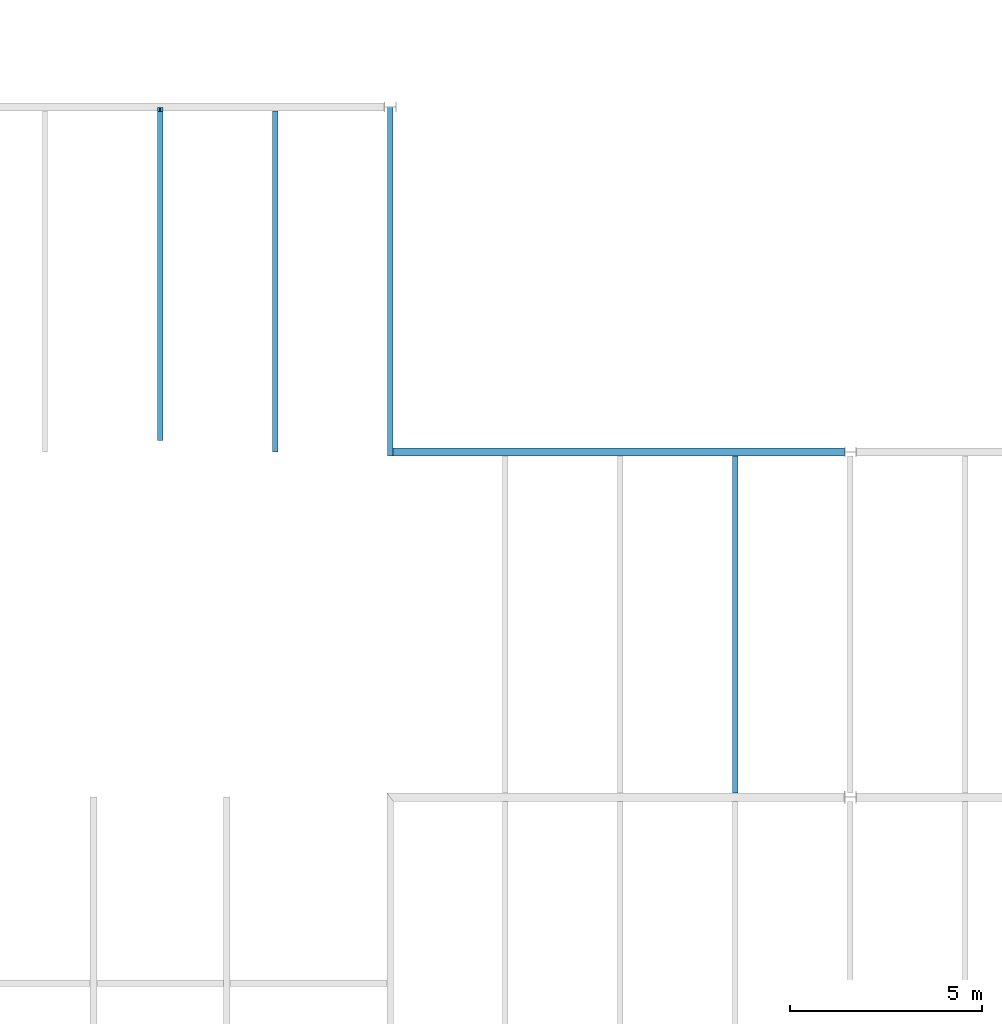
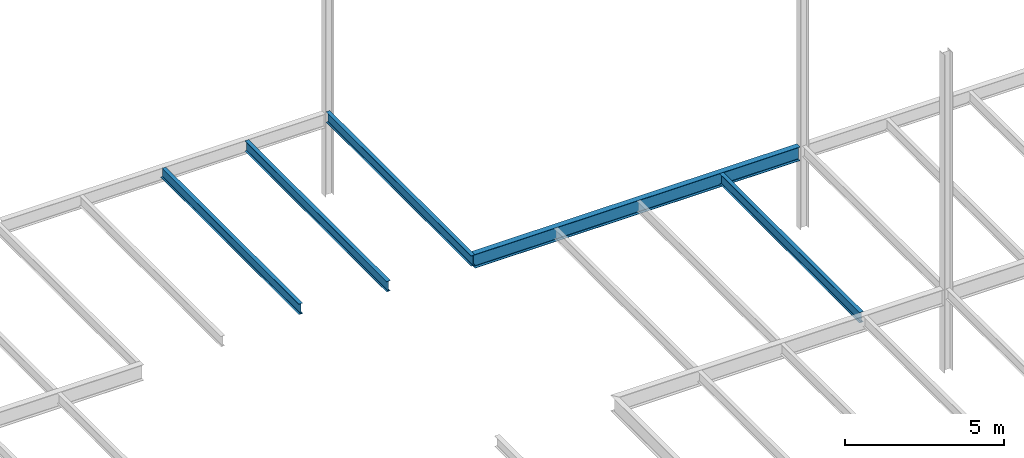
# One storey, part 17 of 26: 5 beams.
"""IFC2X3 building model written with IfcOpenShell, lengths in millimetres."""

from ifc_helpers import new_model, si_unit, origin, place, context, project, spatial, faceted_brep, material, element, save


model = new_model("IFC2X3")

# Units and contexts
context_of_model = context(None, 3, precision=1e-05, world=origin())
ifc_project = project(units=[si_unit("LENGTHUNIT", "METRE", prefix="MILLI")], contexts=[context_of_model])

# Building, storey
building = spatial("IfcBuilding", under=ifc_project, Name="Building", CompositionType="ELEMENT")
storey = spatial("IfcBuildingStorey", under=building, Name="FL4-FRM", CompositionType="ELEMENT")

# Beams
ifc_material_1 = material(Name="A992")
beam_1_placement = place(None, origin())
element("IfcBeam", 1, at=beam_1_placement, inside=storey, material=ifc_material_1, Name="B174", context=context_of_model, shape_type="Brep", body=[
    faceted_brep([(11930.0, 35995.6, 12974.0), (12070.0, 35995.6, 12974.0), (12070.0, 26895.5, 12974.0), (11930.0, 26895.5, 12974.0), (12070.0, 35995.6, 12982.8), (12070.0, 26895.5, 12982.8), (12013.4, 35995.6, 12982.8), (12013.4, 26895.5, 12982.8), (12010.8, 35995.6, 12983.1), (12010.8, 26895.5, 12983.1), (12008.3, 35995.6, 12984.2), (12008.3, 26895.5, 12984.2), (12006.2, 35995.6, 12985.8), (12006.2, 26895.5, 12985.8), (12004.6, 35995.6, 12987.9), (12004.6, 26895.5, 12987.9), (12003.5, 35995.6, 12990.4), (12003.5, 26895.5, 12990.4), (12003.2, 35995.6, 12993.0), (12003.2, 26895.5, 12993.0), (12003.2, 35995.6, 13354.0), (12003.2, 26895.5, 13354.0), (12003.5, 35995.6, 13356.6), (12003.5, 26895.5, 13356.6), (12004.6, 35995.6, 13359.1), (12004.6, 26895.5, 13359.1), (12006.2, 35995.6, 13361.2), (12006.2, 26895.5, 13361.2), (12008.3, 35995.6, 13362.8), (12008.3, 26895.5, 13362.8), (12010.8, 35995.6, 13363.9), (12010.8, 26895.5, 13363.9), (12013.4, 35995.6, 13364.2), (12013.4, 26895.5, 13364.2), (12070.0, 35995.6, 13364.2), (12070.0, 26895.5, 13364.2), (12070.0, 35995.6, 13373.0), (12070.0, 26895.5, 13373.0), (11930.0, 35995.6, 13373.0), (11930.0, 26895.5, 13373.0), (11930.0, 35995.6, 13364.2), (11930.0, 26895.5, 13364.2), (11986.6, 35995.6, 13364.2), (11986.6, 26895.5, 13364.2), (11989.2, 35995.6, 13363.9), (11989.2, 26895.5, 13363.9), (11991.7, 35995.6, 13362.8), (11991.7, 26895.5, 13362.8), (11993.8, 35995.6, 13361.2), (11993.8, 26895.5, 13361.2), (11995.4, 35995.6, 13359.1), (11995.4, 26895.5, 13359.1), (11996.5, 35995.6, 13356.6), (11996.5, 26895.5, 13356.6), (11996.8, 35995.6, 13354.0), (11996.8, 26895.5, 13354.0), (11996.8, 35995.6, 12993.0), (11996.8, 26895.5, 12993.0), (11996.5, 35995.6, 12990.4), (11996.5, 26895.5, 12990.4), (11995.4, 35995.6, 12987.9), (11995.4, 26895.5, 12987.9), (11993.8, 35995.6, 12985.8), (11993.8, 26895.5, 12985.8), (11991.7, 35995.6, 12984.2), (11991.7, 26895.5, 12984.2), (11989.2, 35995.6, 12983.1), (11989.2, 26895.5, 12983.1), (11986.6, 35995.6, 12982.8), (11986.6, 26895.5, 12982.8), (11930.0, 35995.6, 12982.8), (11930.0, 26895.5, 12982.8)], [[[0, 1, 2, 3]], [[1, 4, 5, 2]], [[4, 6, 7, 5]], [[6, 8, 9, 7]], [[8, 10, 11, 9]], [[10, 12, 13, 11]], [[12, 14, 15, 13]], [[14, 16, 17, 15]], [[16, 18, 19, 17]], [[18, 20, 21, 19]], [[20, 22, 23, 21]], [[22, 24, 25, 23]], [[24, 26, 27, 25]], [[26, 28, 29, 27]], [[28, 30, 31, 29]], [[30, 32, 33, 31]], [[32, 34, 35, 33]], [[34, 36, 37, 35]], [[36, 38, 39, 37]], [[38, 40, 41, 39]], [[40, 42, 43, 41]], [[42, 44, 45, 43]], [[44, 46, 47, 45]], [[46, 48, 49, 47]], [[48, 50, 51, 49]], [[50, 52, 53, 51]], [[52, 54, 55, 53]], [[54, 56, 57, 55]], [[56, 58, 59, 57]], [[58, 60, 61, 59]], [[60, 62, 63, 61]], [[62, 64, 65, 63]], [[64, 66, 67, 65]], [[66, 68, 69, 67]], [[68, 70, 71, 69]], [[70, 0, 3, 71]], [[0, 70, 68, 66, 64, 62, 60, 58, 56, 54, 52, 50, 48, 46, 44, 42, 40, 38, 36, 34, 32, 30, 28, 26, 24, 22, 20, 18, 16, 14, 12, 10, 8, 6, 4, 1]], [[3, 2, 5, 7, 9, 11, 13, 15, 17, 19, 21, 23, 25, 27, 29, 31, 33, 35, 37, 39, 41, 43, 45, 47, 49, 51, 53, 55, 57, 59, 61, 63, 65, 67, 69, 71]]]),
])
ifc_material_2 = material(Name="A992")
beam_2_placement = place(None, origin())
element("IfcBeam", 2, at=beam_2_placement, inside=storey, material=ifc_material_2, Name="B176", context=context_of_model, shape_type="Brep", body=[
    faceted_brep([(5930.0, 35985.3, 12974.0), (6070.0, 35985.3, 12974.0), (6070.0, 27304.8, 12974.0), (5930.0, 27304.8, 12974.0), (6070.0, 35985.3, 12982.8), (6070.0, 27304.8, 12982.8), (6013.4, 35985.3, 12982.8), (6013.4, 27304.8, 12982.8), (6012.96, 35985.3, 12982.8), (6012.96, 27304.8, 12982.8), (6012.51, 35985.3, 12982.8), (6012.51, 27304.8, 12982.8), (6012.07, 35985.3, 12982.9), (6012.07, 27304.8, 12982.9), (6011.63, 35985.3, 12983.0), (6011.63, 27304.8, 12983.0), (6011.19, 35985.3, 12983.0), (6011.19, 27304.8, 12983.0), (6010.76, 35985.3, 12983.1), (6010.76, 27304.8, 12983.1), (6010.33, 35985.3, 12983.3), (6010.33, 27304.8, 12983.3), (6009.91, 35985.3, 12983.4), (6009.91, 27304.8, 12983.4), (6009.5, 35985.3, 12983.6), (6009.5, 27304.8, 12983.6), (6009.09, 35985.3, 12983.8), (6009.09, 27304.8, 12983.8), (6008.69, 35985.3, 12984.0), (6008.69, 27304.8, 12984.0), (6008.3, 35985.3, 12984.2), (6008.3, 27304.8, 12984.2), (6007.92, 35985.3, 12984.4), (6007.92, 27304.8, 12984.4), (6007.55, 35985.3, 12984.6), (6007.55, 27304.8, 12984.6), (6007.19, 35985.3, 12984.9), (6007.19, 27304.8, 12984.9), (6006.84, 35985.3, 12985.2), (6006.84, 27304.8, 12985.2), (6006.51, 35985.3, 12985.5), (6006.51, 27304.8, 12985.5), (6006.19, 35985.3, 12985.8), (6006.19, 27304.8, 12985.8), (6005.88, 35985.3, 12986.1), (6005.88, 27304.8, 12986.1), (6005.59, 35985.3, 12986.4), (6005.59, 27304.8, 12986.4), (6005.31, 35985.3, 12986.8), (6005.31, 27304.8, 12986.8), (6005.04, 35985.3, 12987.1), (6005.04, 27304.8, 12987.1), (6004.8, 35985.3, 12987.5), (6004.8, 27304.8, 12987.5), (6004.57, 35985.3, 12987.9), (6004.57, 27304.8, 12987.9), (6004.35, 35985.3, 12988.3), (6004.35, 27304.8, 12988.3), (6004.16, 35985.3, 12988.7), (6004.16, 27304.8, 12988.7), (6003.98, 35985.3, 12989.1), (6003.98, 27304.8, 12989.1), (6003.82, 35985.3, 12989.5), (6003.82, 27304.8, 12989.5), (6003.67, 35985.3, 12989.9), (6003.67, 27304.8, 12989.9), (6003.55, 35985.3, 12990.4), (6003.55, 27304.8, 12990.4), (6003.44, 35985.3, 12990.8), (6003.44, 27304.8, 12990.8), (6003.35, 35985.3, 12991.2), (6003.35, 27304.8, 12991.2), (6003.29, 35985.3, 12991.7), (6003.29, 27304.8, 12991.7), (6003.24, 35985.3, 12992.1), (6003.24, 27304.8, 12992.1), (6003.21, 35985.3, 12992.6), (6003.21, 27304.8, 12992.6), (6003.2, 35985.3, 12993.0), (6003.2, 27304.8, 12993.0), (6003.2, 35985.3, 13349.7), (6003.2, 35895.5, 13349.7), (6003.2, 35895.1, 13349.7), (6003.2, 35894.6, 13349.7), (6003.2, 35894.2, 13349.8), (6003.2, 35893.7, 13349.9), (6003.2, 35893.3, 13349.9), (6003.2, 35892.8, 13350.1), (6003.2, 35892.4, 13350.2), (6003.2, 35892.0, 13350.3), (6003.2, 35891.6, 13350.5), (6003.2, 35891.2, 13350.7), (6003.2, 35890.8, 13350.9), (6003.2, 35890.4, 13351.1), (6003.2, 35890.0, 13351.3), (6003.2, 35889.6, 13351.6), (6003.2, 35889.3, 13351.9), (6003.2, 35888.9, 13352.2), (6003.2, 35888.6, 13352.5), (6003.2, 35888.3, 13352.8), (6003.2, 35888.0, 13353.1), (6003.2, 35887.7, 13353.5), (6003.2, 35887.4, 13353.8), (6003.2, 35887.3, 13354.0), (6003.2, 27304.8, 13354.0), (6003.2, 35887.2, 13354.2), (6003.21, 35887.0, 13354.4), (6003.21, 27304.8, 13354.4), (6003.22, 35886.9, 13354.6), (6003.24, 35886.7, 13354.9), (6003.24, 27304.8, 13354.9), (6003.25, 35886.7, 13355.0), (6003.29, 35886.5, 13355.3), (6003.29, 27304.8, 13355.3), (6003.29, 35886.5, 13355.4), (6003.35, 35886.3, 13355.8), (6003.35, 35886.3, 13355.8), (6003.35, 27304.8, 13355.8), (6003.44, 35886.1, 13356.2), (6003.44, 35886.1, 13356.2), (6003.44, 27304.8, 13356.2), (6003.54, 35886.0, 13356.6), (6003.55, 35886.0, 13356.6), (6003.55, 27304.8, 13356.6), (6003.66, 35885.9, 13357.0), (6003.67, 35885.9, 13357.1), (6003.67, 27304.8, 13357.1), (6003.81, 35885.8, 13357.5), (6003.82, 35885.7, 13357.5), (6003.82, 27304.8, 13357.5), (6003.98, 35885.7, 13357.9), (6003.98, 27304.8, 13357.9), (6003.98, 35885.7, 13357.9), (6004.16, 35885.6, 13358.3), (6004.16, 27304.8, 13358.3), (6004.17, 35885.6, 13358.3), (6004.35, 35885.5, 13358.7), (6004.35, 27304.8, 13358.7), (6004.4, 35885.5, 13358.8), (6004.57, 35885.5, 13359.1), (6004.57, 27304.8, 13359.1), (6004.65, 35885.5, 13359.2), (6004.8, 35885.5, 13359.5), (6004.8, 27304.8, 13359.5), (6004.94, 35885.5, 13359.7), (6005.04, 35885.5, 13359.9), (6005.04, 27304.8, 13359.9), (6005.31, 35885.5, 13360.2), (6005.31, 27304.8, 13360.2), (6005.59, 35885.5, 13360.6), (6005.59, 27304.8, 13360.6), (6005.88, 35885.5, 13360.9), (6005.88, 27304.8, 13360.9), (6006.19, 35885.5, 13361.2), (6006.19, 27304.8, 13361.2), (6006.51, 35885.5, 13361.5), (6006.51, 27304.8, 13361.5), (6006.84, 35885.5, 13361.8), (6006.84, 27304.8, 13361.8), (6007.19, 35885.5, 13362.1), (6007.19, 27304.8, 13362.1), (6007.55, 35885.5, 13362.4), (6007.55, 27304.8, 13362.4), (6007.92, 35885.5, 13362.6), (6007.92, 27304.8, 13362.6), (6008.3, 35885.5, 13362.8), (6008.3, 27304.8, 13362.8), (6008.69, 35885.5, 13363.0), (6008.69, 27304.8, 13363.0), (6009.09, 35885.5, 13363.2), (6009.09, 27304.8, 13363.2), (6009.5, 35885.5, 13363.4), (6009.5, 27304.8, 13363.4), (6009.91, 35885.5, 13363.6), (6009.91, 27304.8, 13363.6), (6010.33, 35885.5, 13363.7), (6010.33, 27304.8, 13363.7), (6010.76, 35885.5, 13363.9), (6010.76, 27304.8, 13363.9), (6011.19, 35885.5, 13364.0), (6011.19, 27304.8, 13364.0), (6011.63, 35885.5, 13364.0), (6011.63, 27304.8, 13364.0), (6012.07, 35885.5, 13364.1), (6012.07, 27304.8, 13364.1), (6012.51, 35885.5, 13364.2), (6012.51, 27304.8, 13364.2), (6012.96, 35885.5, 13364.2), (6012.96, 27304.8, 13364.2), (6013.4, 35885.5, 13364.2), (6013.4, 27304.8, 13364.2), (6070.0, 35885.5, 13364.2), (6070.0, 27304.8, 13364.2), (6070.0, 35885.5, 13373.0), (6070.0, 27304.8, 13373.0), (5930.0, 35885.5, 13373.0), (5930.0, 27304.8, 13373.0), (5930.0, 35885.5, 13364.2), (5930.0, 27304.8, 13364.2), (5986.6, 35885.5, 13364.2), (5986.6, 27304.8, 13364.2), (5987.04, 35885.5, 13364.2), (5987.04, 27304.8, 13364.2), (5987.49, 35885.5, 13364.2), (5987.49, 27304.8, 13364.2), (5987.93, 35885.5, 13364.1), (5987.93, 27304.8, 13364.1), (5988.37, 35885.5, 13364.0), (5988.37, 27304.8, 13364.0), (5988.81, 35885.5, 13364.0), (5988.81, 27304.8, 13364.0), (5989.24, 35885.5, 13363.9), (5989.24, 27304.8, 13363.9), (5989.67, 35885.5, 13363.7), (5989.67, 27304.8, 13363.7), (5990.09, 35885.5, 13363.6), (5990.09, 27304.8, 13363.6), (5990.5, 35885.5, 13363.4), (5990.5, 27304.8, 13363.4), (5990.91, 35885.5, 13363.2), (5990.91, 27304.8, 13363.2), (5991.31, 35885.5, 13363.0), (5991.31, 27304.8, 13363.0), (5991.7, 35885.5, 13362.8), (5991.7, 27304.8, 13362.8), (5992.08, 35885.5, 13362.6), (5992.08, 27304.8, 13362.6), (5992.45, 35885.5, 13362.4), (5992.45, 27304.8, 13362.4), (5992.81, 35885.5, 13362.1), (5992.81, 27304.8, 13362.1), (5993.16, 35885.5, 13361.8), (5993.16, 27304.8, 13361.8), (5993.49, 35885.5, 13361.5), (5993.49, 27304.8, 13361.5), (5993.81, 35885.5, 13361.2), (5993.81, 27304.8, 13361.2), (5994.12, 35885.5, 13360.9), (5994.12, 27304.8, 13360.9), (5994.41, 35885.5, 13360.6), (5994.41, 27304.8, 13360.6), (5994.69, 35885.5, 13360.2), (5994.69, 27304.8, 13360.2), (5994.96, 35885.5, 13359.9), (5994.96, 27304.8, 13359.9), (5995.06, 35885.5, 13359.7), (5995.2, 35885.5, 13359.5), (5995.2, 27304.8, 13359.5), (5995.35, 35885.5, 13359.2), (5995.43, 35885.5, 13359.1), (5995.43, 27304.8, 13359.1), (5995.6, 35885.5, 13358.8), (5995.65, 35885.5, 13358.7), (5995.65, 27304.8, 13358.7), (5995.83, 35885.6, 13358.3), (5995.84, 35885.6, 13358.3), (5995.84, 27304.8, 13358.3), (5996.02, 35885.7, 13357.9), (5996.02, 35885.7, 13357.9), (5996.02, 27304.8, 13357.9), (5996.18, 35885.7, 13357.5), (5996.18, 27304.8, 13357.5), (5996.19, 35885.8, 13357.5), (5996.33, 35885.9, 13357.1), (5996.33, 27304.8, 13357.1), (5996.34, 35885.9, 13357.0), (5996.45, 35886.0, 13356.6), (5996.45, 27304.8, 13356.6), (5996.46, 35886.0, 13356.6), (5996.56, 35886.1, 13356.2), (5996.56, 27304.8, 13356.2), (5996.56, 35886.1, 13356.2), (5996.65, 35886.3, 13355.8), (5996.65, 27304.8, 13355.8), (5996.65, 35886.3, 13355.8), (5996.71, 35886.5, 13355.4), (5996.71, 35886.5, 13355.3), (5996.71, 27304.8, 13355.3), (5996.75, 35886.7, 13355.0), (5996.76, 35886.7, 13354.9), (5996.76, 27304.8, 13354.9), (5996.78, 35886.9, 13354.6), (5996.79, 35887.0, 13354.4), (5996.79, 27304.8, 13354.4), (5996.8, 35887.2, 13354.2), (5996.8, 35887.3, 13354.0), (5996.8, 27304.8, 13354.0), (5996.8, 35887.4, 13353.8), (5996.8, 35887.7, 13353.5), (5996.8, 35888.0, 13353.1), (5996.8, 35888.3, 13352.8), (5996.8, 35888.6, 13352.5), (5996.8, 35888.9, 13352.2), (5996.8, 35889.3, 13351.9), (5996.8, 35889.6, 13351.6), (5996.8, 35890.0, 13351.3), (5996.8, 35890.4, 13351.1), (5996.8, 35890.8, 13350.9), (5996.8, 35891.2, 13350.7), (5996.8, 35891.6, 13350.5), (5996.8, 35892.0, 13350.3), (5996.8, 35892.4, 13350.2), (5996.8, 35892.8, 13350.1), (5996.8, 35893.3, 13349.9), (5996.8, 35893.7, 13349.9), (5996.8, 35894.2, 13349.8), (5996.8, 35894.6, 13349.7), (5996.8, 35895.1, 13349.7), (5996.8, 35895.5, 13349.7), (5996.8, 35985.3, 13349.7), (5996.8, 35985.3, 12993.0), (5996.8, 27304.8, 12993.0), (5996.79, 35985.3, 12992.5), (5996.79, 27304.8, 12992.5), (5996.76, 35985.3, 12992.1), (5996.76, 27304.8, 12992.1), (5996.71, 35985.3, 12991.6), (5996.71, 27304.8, 12991.6), (5996.64, 35985.3, 12991.2), (5996.64, 27304.8, 12991.2), (5996.54, 35985.3, 12990.7), (5996.54, 27304.8, 12990.7), (5996.43, 35985.3, 12990.3), (5996.43, 27304.8, 12990.3), (5996.3, 35985.3, 12989.8), (5996.3, 27304.8, 12989.8), (5996.15, 35985.3, 12989.4), (5996.15, 27304.8, 12989.4), (5995.98, 35985.3, 12989.0), (5995.98, 27304.8, 12989.0), (5995.79, 35985.3, 12988.6), (5995.79, 27304.8, 12988.6), (5995.58, 35985.3, 12988.2), (5995.58, 27304.8, 12988.2), (5995.36, 35985.3, 12987.8), (5995.36, 27304.8, 12987.8), (5995.11, 35985.3, 12987.4), (5995.11, 27304.8, 12987.4), (5994.85, 35985.3, 12987.0), (5994.85, 27304.8, 12987.0), (5994.57, 35985.3, 12986.6), (5994.57, 27304.8, 12986.6), (5994.28, 35985.3, 12986.3), (5994.28, 27304.8, 12986.3), (5993.97, 35985.3, 12986.0), (5993.97, 27304.8, 12986.0), (5993.65, 35985.3, 12985.6), (5993.65, 27304.8, 12985.6), (5993.31, 35985.3, 12985.3), (5993.31, 27304.8, 12985.3), (5992.96, 35985.3, 12985.0), (5992.96, 27304.8, 12985.0), (5992.6, 35985.3, 12984.7), (5992.6, 27304.8, 12984.7), (5992.22, 35985.3, 12984.5), (5992.22, 27304.8, 12984.5), (5991.83, 35985.3, 12984.2), (5991.83, 27304.8, 12984.2), (5991.43, 35985.3, 12984.0), (5991.43, 27304.8, 12984.0), (5991.03, 35985.3, 12983.8), (5991.03, 27304.8, 12983.8), (5990.61, 35985.3, 12983.6), (5990.61, 27304.8, 12983.6), (5990.18, 35985.3, 12983.5), (5990.18, 27304.8, 12983.5), (5989.75, 35985.3, 12983.3), (5989.75, 27304.8, 12983.3), (5989.31, 35985.3, 12983.2), (5989.31, 27304.8, 12983.2), (5988.87, 35985.3, 12983.1), (5988.87, 27304.8, 12983.1), (5988.42, 35985.3, 12983.0), (5988.42, 27304.8, 12983.0), (5987.97, 35985.3, 12982.9), (5987.97, 27304.8, 12982.9), (5987.51, 35985.3, 12982.8), (5987.51, 27304.8, 12982.8), (5987.06, 35985.3, 12982.8), (5987.06, 27304.8, 12982.8), (5986.6, 35985.3, 12982.8), (5986.6, 27304.8, 12982.8), (5930.0, 35985.3, 12982.8), (5930.0, 27304.8, 12982.8)], [[[0, 1, 2, 3]], [[1, 4, 5, 2]], [[4, 6, 7, 5]], [[6, 8, 9, 7]], [[8, 10, 11, 9]], [[10, 12, 13, 11]], [[12, 14, 15, 13]], [[14, 16, 17, 15]], [[16, 18, 19, 17]], [[18, 20, 21, 19]], [[20, 22, 23, 21]], [[22, 24, 25, 23]], [[24, 26, 27, 25]], [[26, 28, 29, 27]], [[28, 30, 31, 29]], [[30, 32, 33, 31]], [[32, 34, 35, 33]], [[34, 36, 37, 35]], [[36, 38, 39, 37]], [[38, 40, 41, 39]], [[40, 42, 43, 41]], [[42, 44, 45, 43]], [[44, 46, 47, 45]], [[46, 48, 49, 47]], [[48, 50, 51, 49]], [[50, 52, 53, 51]], [[52, 54, 55, 53]], [[54, 56, 57, 55]], [[56, 58, 59, 57]], [[58, 60, 61, 59]], [[60, 62, 63, 61]], [[62, 64, 65, 63]], [[64, 66, 67, 65]], [[66, 68, 69, 67]], [[68, 70, 71, 69]], [[70, 72, 73, 71]], [[72, 74, 75, 73]], [[74, 76, 77, 75]], [[76, 78, 79, 77]], [[78, 80, 81, 82, 83, 84, 85, 86, 87, 88, 89, 90, 91, 92, 93, 94, 95, 96, 97, 98, 99, 100, 101, 102, 103, 104, 79]], [[103, 105, 106, 107, 104]], [[106, 108, 109, 110, 107]], [[109, 111, 112, 113, 110]], [[112, 114, 115, 116, 117, 113]], [[116, 118, 119, 120, 117]], [[119, 121, 122, 123, 120]], [[122, 124, 125, 126, 123]], [[125, 127, 128, 129, 126]], [[128, 130, 131, 129]], [[130, 132, 133, 134, 131]], [[133, 135, 136, 137, 134]], [[136, 138, 139, 140, 137]], [[139, 141, 142, 143, 140]], [[142, 144, 145, 146, 143]], [[145, 147, 148, 146]], [[147, 149, 150, 148]], [[149, 151, 152, 150]], [[151, 153, 154, 152]], [[153, 155, 156, 154]], [[155, 157, 158, 156]], [[157, 159, 160, 158]], [[159, 161, 162, 160]], [[161, 163, 164, 162]], [[163, 165, 166, 164]], [[165, 167, 168, 166]], [[167, 169, 170, 168]], [[169, 171, 172, 170]], [[171, 173, 174, 172]], [[173, 175, 176, 174]], [[175, 177, 178, 176]], [[177, 179, 180, 178]], [[179, 181, 182, 180]], [[181, 183, 184, 182]], [[183, 185, 186, 184]], [[185, 187, 188, 186]], [[187, 189, 190, 188]], [[189, 191, 192, 190]], [[191, 193, 194, 192]], [[193, 195, 196, 194]], [[195, 197, 198, 196]], [[197, 199, 200, 198]], [[199, 201, 202, 200]], [[201, 203, 204, 202]], [[203, 205, 206, 204]], [[205, 207, 208, 206]], [[207, 209, 210, 208]], [[209, 211, 212, 210]], [[211, 213, 214, 212]], [[213, 215, 216, 214]], [[215, 217, 218, 216]], [[217, 219, 220, 218]], [[219, 221, 222, 220]], [[221, 223, 224, 222]], [[223, 225, 226, 224]], [[225, 227, 228, 226]], [[227, 229, 230, 228]], [[229, 231, 232, 230]], [[231, 233, 234, 232]], [[233, 235, 236, 234]], [[235, 237, 238, 236]], [[237, 239, 240, 238]], [[239, 241, 242, 240]], [[241, 243, 244, 242]], [[243, 245, 246, 247, 244]], [[246, 248, 249, 250, 247]], [[249, 251, 252, 253, 250]], [[252, 254, 255, 256, 253]], [[255, 257, 258, 259, 256]], [[258, 260, 261, 259]], [[260, 262, 263, 264, 261]], [[263, 265, 266, 267, 264]], [[266, 268, 269, 270, 267]], [[269, 271, 272, 273, 270]], [[272, 274, 275, 276, 277, 273]], [[276, 278, 279, 280, 277]], [[279, 281, 282, 283, 280]], [[282, 284, 285, 286, 283]], [[285, 287, 288, 289, 290, 291, 292, 293, 294, 295, 296, 297, 298, 299, 300, 301, 302, 303, 304, 305, 306, 307, 308, 309, 310, 311, 286]], [[310, 312, 313, 311]], [[312, 314, 315, 313]], [[314, 316, 317, 315]], [[316, 318, 319, 317]], [[318, 320, 321, 319]], [[320, 322, 323, 321]], [[322, 324, 325, 323]], [[324, 326, 327, 325]], [[326, 328, 329, 327]], [[328, 330, 331, 329]], [[330, 332, 333, 331]], [[332, 334, 335, 333]], [[334, 336, 337, 335]], [[336, 338, 339, 337]], [[338, 340, 341, 339]], [[340, 342, 343, 341]], [[342, 344, 345, 343]], [[344, 346, 347, 345]], [[346, 348, 349, 347]], [[348, 350, 351, 349]], [[350, 352, 353, 351]], [[352, 354, 355, 353]], [[354, 356, 357, 355]], [[356, 358, 359, 357]], [[358, 360, 361, 359]], [[360, 362, 363, 361]], [[362, 364, 365, 363]], [[364, 366, 367, 365]], [[366, 368, 369, 367]], [[368, 370, 371, 369]], [[370, 372, 373, 371]], [[372, 374, 375, 373]], [[374, 376, 377, 375]], [[376, 378, 379, 377]], [[378, 380, 381, 379]], [[380, 382, 383, 381]], [[382, 0, 3, 383]], [[3, 2, 5, 7, 9, 11, 13, 15, 17, 19, 21, 23, 25, 27, 29, 31, 33, 35, 37, 39, 41, 43, 45, 47, 49, 51, 53, 55, 57, 59, 61, 63, 65, 67, 69, 71, 73, 75, 77, 79, 104, 107, 110, 113, 117, 120, 123, 126, 129, 131, 134, 137, 140, 143, 146, 148, 150, 152, 154, 156, 158, 160, 162, 164, 166, 168, 170, 172, 174, 176, 178, 180, 182, 184, 186, 188, 190, 192, 194, 196, 198, 200, 202, 204, 206, 208, 210, 212, 214, 216, 218, 220, 222, 224, 226, 228, 230, 232, 234, 236, 238, 240, 242, 244, 247, 250, 253, 256, 259, 261, 264, 267, 270, 273, 277, 280, 283, 286, 311, 313, 315, 317, 319, 321, 323, 325, 327, 329, 331, 333, 335, 337, 339, 341, 343, 345, 347, 349, 351, 353, 355, 357, 359, 361, 363, 365, 367, 369, 371, 373, 375, 377, 379, 381, 383]], [[309, 80, 78, 76, 74, 72, 70, 68, 66, 64, 62, 60, 58, 56, 54, 52, 50, 48, 46, 44, 42, 40, 38, 36, 34, 32, 30, 28, 26, 24, 22, 20, 18, 16, 14, 12, 10, 8, 6, 4, 1, 0, 382, 380, 378, 376, 374, 372, 370, 368, 366, 364, 362, 360, 358, 356, 354, 352, 350, 348, 346, 344, 342, 340, 338, 336, 334, 332, 330, 328, 326, 324, 322, 320, 318, 316, 314, 312, 310]], [[80, 309, 308, 81]], [[81, 308, 307, 82]], [[82, 307, 306, 83]], [[83, 306, 305, 84]], [[84, 305, 304, 85]], [[85, 304, 303, 86]], [[86, 303, 302, 87]], [[87, 302, 301, 88]], [[88, 301, 300, 89]], [[89, 300, 299, 90]], [[90, 299, 298, 91]], [[91, 298, 297, 92]], [[92, 297, 296, 93]], [[93, 296, 295, 94]], [[94, 295, 294, 95]], [[95, 294, 293, 96]], [[96, 293, 292, 97]], [[97, 292, 291, 98]], [[98, 291, 290, 99]], [[99, 290, 289, 100]], [[100, 289, 288, 101]], [[101, 288, 287, 102]], [[102, 287, 285, 284, 105, 103]], [[105, 284, 282, 281, 108, 106]], [[108, 281, 279, 278, 111, 109]], [[111, 278, 276, 275, 114, 112]], [[114, 275, 274, 115]], [[115, 274, 272, 271, 118, 116]], [[118, 271, 269, 268, 121, 119]], [[121, 268, 266, 265, 124, 122]], [[124, 265, 263, 262, 127, 125]], [[127, 262, 260, 258, 257, 132, 130, 128]], [[132, 257, 255, 254, 135, 133]], [[135, 254, 252, 251, 138, 136]], [[138, 251, 249, 248, 141, 139]], [[141, 248, 246, 245, 144, 142]], [[144, 245, 243, 241, 239, 237, 235, 233, 231, 229, 227, 225, 223, 221, 219, 217, 215, 213, 211, 209, 207, 205, 203, 201, 199, 197, 195, 193, 191, 189, 187, 185, 183, 181, 179, 177, 175, 173, 171, 169, 167, 165, 163, 161, 159, 157, 155, 153, 151, 149, 147, 145]]]),
])
ifc_material_3 = material(Name="A992")
beam_3_placement = place(None, origin())
element("IfcBeam", 3, at=beam_3_placement, inside=storey, material=ifc_material_3, Name="B177", context=context_of_model, shape_type="Brep", body=[
    faceted_brep([(8930.0, 35895.5, 12974.0), (9070.0, 35895.5, 12974.0), (9070.0, 27000.0, 12974.0), (8930.0, 27000.0, 12974.0), (9070.0, 35895.5, 12982.8), (9070.0, 27000.0, 12982.8), (9013.4, 35895.5, 12982.8), (9013.4, 27000.0, 12982.8), (9010.76, 35895.5, 12983.1), (9010.76, 27000.0, 12983.1), (9008.3, 35895.5, 12984.2), (9008.3, 27000.0, 12984.2), (9006.19, 35895.5, 12985.8), (9006.19, 27000.0, 12985.8), (9004.57, 35895.5, 12987.9), (9004.57, 27000.0, 12987.9), (9003.55, 35895.5, 12990.4), (9003.55, 27000.0, 12990.4), (9003.2, 35895.5, 12993.0), (9003.2, 27000.0, 12993.0), (9003.2, 35895.5, 13354.0), (9003.2, 27000.0, 13354.0), (9003.55, 35895.5, 13356.6), (9003.55, 27000.0, 13356.6), (9004.57, 35895.5, 13359.1), (9004.57, 27000.0, 13359.1), (9006.19, 35895.5, 13361.2), (9006.19, 27000.0, 13361.2), (9008.3, 35895.5, 13362.8), (9008.3, 27000.0, 13362.8), (9010.76, 35895.5, 13363.9), (9010.76, 27000.0, 13363.9), (9013.4, 35895.5, 13364.2), (9013.4, 27000.0, 13364.2), (9070.0, 35895.5, 13364.2), (9070.0, 27000.0, 13364.2), (9070.0, 35895.5, 13373.0), (9070.0, 27000.0, 13373.0), (8930.0, 35895.5, 13373.0), (8930.0, 27000.0, 13373.0), (8930.0, 35895.5, 13364.2), (8930.0, 27000.0, 13364.2), (8986.6, 35895.5, 13364.2), (8986.6, 27000.0, 13364.2), (8989.24, 35895.5, 13363.9), (8989.24, 27000.0, 13363.9), (8991.7, 35895.5, 13362.8), (8991.7, 27000.0, 13362.8), (8993.81, 35895.5, 13361.2), (8993.81, 27000.0, 13361.2), (8995.43, 35895.5, 13359.1), (8995.43, 27000.0, 13359.1), (8996.45, 35895.5, 13356.6), (8996.45, 27000.0, 13356.6), (8996.8, 35895.5, 13354.0), (8996.8, 27000.0, 13354.0), (8996.8, 35895.5, 12993.0), (8996.8, 27000.0, 12993.0), (8996.45, 35895.5, 12990.4), (8996.45, 27000.0, 12990.4), (8995.43, 35895.5, 12987.9), (8995.43, 27000.0, 12987.9), (8993.81, 35895.5, 12985.8), (8993.81, 27000.0, 12985.8), (8991.7, 35895.5, 12984.2), (8991.7, 27000.0, 12984.2), (8989.24, 35895.5, 12983.1), (8989.24, 27000.0, 12983.1), (8986.6, 35895.5, 12982.8), (8986.6, 27000.0, 12982.8), (8930.0, 35895.5, 12982.8), (8930.0, 27000.0, 12982.8)], [[[0, 1, 2, 3]], [[1, 4, 5, 2]], [[4, 6, 7, 5]], [[6, 8, 9, 7]], [[8, 10, 11, 9]], [[10, 12, 13, 11]], [[12, 14, 15, 13]], [[14, 16, 17, 15]], [[16, 18, 19, 17]], [[18, 20, 21, 19]], [[20, 22, 23, 21]], [[22, 24, 25, 23]], [[24, 26, 27, 25]], [[26, 28, 29, 27]], [[28, 30, 31, 29]], [[30, 32, 33, 31]], [[32, 34, 35, 33]], [[34, 36, 37, 35]], [[36, 38, 39, 37]], [[38, 40, 41, 39]], [[40, 42, 43, 41]], [[42, 44, 45, 43]], [[44, 46, 47, 45]], [[46, 48, 49, 47]], [[48, 50, 51, 49]], [[50, 52, 53, 51]], [[52, 54, 55, 53]], [[54, 56, 57, 55]], [[56, 58, 59, 57]], [[58, 60, 61, 59]], [[60, 62, 63, 61]], [[62, 64, 65, 63]], [[64, 66, 67, 65]], [[66, 68, 69, 67]], [[68, 70, 71, 69]], [[70, 0, 3, 71]], [[0, 70, 68, 66, 64, 62, 60, 58, 56, 54, 52, 50, 48, 46, 44, 42, 40, 38, 36, 34, 32, 30, 28, 26, 24, 22, 20, 18, 16, 14, 12, 10, 8, 6, 4, 1]], [[3, 2, 5, 7, 9, 11, 13, 15, 17, 19, 21, 23, 25, 27, 29, 31, 33, 35, 37, 39, 41, 43, 45, 47, 49, 51, 53, 55, 57, 59, 61, 63, 65, 67, 69, 71]]]),
])
ifc_material_4 = material(Name="A992")
beam_4_placement = place(None, origin())
element("IfcBeam", 4, at=beam_4_placement, inside=storey, material=ifc_material_4, Name="B208", context=context_of_model, shape_type="Brep", body=[
    faceted_brep([(20930.0, 26895.5, 12974.0), (21070.0, 26895.5, 12974.0), (21070.0, 18114.5, 12974.0), (20930.0, 18114.5, 12974.0), (21070.0, 26895.5, 12982.8), (21070.0, 18114.5, 12982.8), (21013.4, 26895.5, 12982.8), (21013.4, 18114.5, 12982.8), (21010.8, 26895.5, 12983.1), (21010.8, 18114.5, 12983.1), (21008.3, 26895.5, 12984.2), (21008.3, 18114.5, 12984.2), (21006.2, 26895.5, 12985.8), (21006.2, 18114.5, 12985.8), (21004.6, 26895.5, 12987.9), (21004.6, 18114.5, 12987.9), (21003.5, 26895.5, 12990.4), (21003.5, 18114.5, 12990.4), (21003.2, 26895.5, 12993.0), (21003.2, 18114.5, 12993.0), (21003.2, 26895.5, 13354.0), (21003.2, 18114.5, 13354.0), (21003.5, 26895.5, 13356.6), (21003.5, 18114.5, 13356.6), (21004.6, 26895.5, 13359.1), (21004.6, 18114.5, 13359.1), (21006.2, 26895.5, 13361.2), (21006.2, 18114.5, 13361.2), (21008.3, 26895.5, 13362.8), (21008.3, 18114.5, 13362.8), (21010.8, 26895.5, 13363.9), (21010.8, 18114.5, 13363.9), (21013.4, 26895.5, 13364.2), (21013.4, 18114.5, 13364.2), (21070.0, 26895.5, 13364.2), (21070.0, 18114.5, 13364.2), (21070.0, 26895.5, 13373.0), (21070.0, 18114.5, 13373.0), (20930.0, 26895.5, 13373.0), (20930.0, 18114.5, 13373.0), (20930.0, 26895.5, 13364.2), (20930.0, 18114.5, 13364.2), (20986.6, 26895.5, 13364.2), (20986.6, 18114.5, 13364.2), (20989.2, 26895.5, 13363.9), (20989.2, 18114.5, 13363.9), (20991.7, 26895.5, 13362.8), (20991.7, 18114.5, 13362.8), (20993.8, 26895.5, 13361.2), (20993.8, 18114.5, 13361.2), (20995.4, 26895.5, 13359.1), (20995.4, 18114.5, 13359.1), (20996.5, 26895.5, 13356.6), (20996.5, 18114.5, 13356.6), (20996.8, 26895.5, 13354.0), (20996.8, 18114.5, 13354.0), (20996.8, 26895.5, 12993.0), (20996.8, 18114.5, 12993.0), (20996.5, 26895.5, 12990.4), (20996.5, 18114.5, 12990.4), (20995.4, 26895.5, 12987.9), (20995.4, 18114.5, 12987.9), (20993.8, 26895.5, 12985.8), (20993.8, 18114.5, 12985.8), (20991.7, 26895.5, 12984.2), (20991.7, 18114.5, 12984.2), (20989.2, 26895.5, 12983.1), (20989.2, 18114.5, 12983.1), (20986.6, 26895.5, 12982.8), (20986.6, 18114.5, 12982.8), (20930.0, 26895.5, 12982.8), (20930.0, 18114.5, 12982.8)], [[[0, 1, 2, 3]], [[1, 4, 5, 2]], [[4, 6, 7, 5]], [[6, 8, 9, 7]], [[8, 10, 11, 9]], [[10, 12, 13, 11]], [[12, 14, 15, 13]], [[14, 16, 17, 15]], [[16, 18, 19, 17]], [[18, 20, 21, 19]], [[20, 22, 23, 21]], [[22, 24, 25, 23]], [[24, 26, 27, 25]], [[26, 28, 29, 27]], [[28, 30, 31, 29]], [[30, 32, 33, 31]], [[32, 34, 35, 33]], [[34, 36, 37, 35]], [[36, 38, 39, 37]], [[38, 40, 41, 39]], [[40, 42, 43, 41]], [[42, 44, 45, 43]], [[44, 46, 47, 45]], [[46, 48, 49, 47]], [[48, 50, 51, 49]], [[50, 52, 53, 51]], [[52, 54, 55, 53]], [[54, 56, 57, 55]], [[56, 58, 59, 57]], [[58, 60, 61, 59]], [[60, 62, 63, 61]], [[62, 64, 65, 63]], [[64, 66, 67, 65]], [[66, 68, 69, 67]], [[68, 70, 71, 69]], [[70, 0, 3, 71]], [[0, 70, 68, 66, 64, 62, 60, 58, 56, 54, 52, 50, 48, 46, 44, 42, 40, 38, 36, 34, 32, 30, 28, 26, 24, 22, 20, 18, 16, 14, 12, 10, 8, 6, 4, 1]], [[3, 2, 5, 7, 9, 11, 13, 15, 17, 19, 21, 23, 25, 27, 29, 31, 33, 35, 37, 39, 41, 43, 45, 47, 49, 51, 53, 55, 57, 59, 61, 63, 65, 67, 69, 71]]]),
])
ifc_material_5 = material(Name="A992")
beam_5_placement = place(None, origin())
element("IfcBeam", 5, at=beam_5_placement, inside=storey, material=ifc_material_5, Name="Column387", context=context_of_model, shape_type="Brep", body=[
    faceted_brep([(12070.0, 26895.5, 12845.0), (12070.0, 27104.5, 12845.0), (23847.0, 27104.5, 12845.0), (23847.0, 26895.5, 12845.0), (12070.0, 27104.5, 12858.3), (23847.0, 27104.5, 12858.3), (12070.0, 27017.4, 12858.3), (23847.0, 27017.4, 12858.3), (12070.0, 27014.2, 12858.7), (23847.0, 27014.2, 12858.7), (12070.0, 27011.1, 12860.0), (23847.0, 27011.1, 12860.0), (12070.0, 27008.5, 12862.0), (23847.0, 27008.5, 12862.0), (12070.0, 27006.5, 12864.7), (23847.0, 27006.5, 12864.7), (12070.0, 27005.2, 12867.7), (23847.0, 27005.2, 12867.7), (12070.0, 27004.8, 12871.0), (23847.0, 27004.8, 12871.0), (12070.0, 27004.8, 13347.0), (23847.0, 27004.8, 13347.0), (12070.0, 27005.2, 13350.3), (23847.0, 27005.2, 13350.3), (12070.0, 27006.5, 13353.3), (23847.0, 27006.5, 13353.3), (12070.0, 27008.5, 13356.0), (23847.0, 27008.5, 13356.0), (12070.0, 27011.1, 13358.0), (23847.0, 27011.1, 13358.0), (12070.0, 27014.2, 13359.3), (23847.0, 27014.2, 13359.3), (12070.0, 27017.4, 13359.7), (23847.0, 27017.4, 13359.7), (12070.0, 27104.5, 13359.7), (23847.0, 27104.5, 13359.7), (12070.0, 27104.5, 13373.0), (23847.0, 27104.5, 13373.0), (12070.0, 26895.5, 13373.0), (23847.0, 26895.5, 13373.0), (12070.0, 26895.5, 13359.7), (23847.0, 26895.5, 13359.7), (12070.0, 26982.6, 13359.7), (23847.0, 26982.6, 13359.7), (12070.0, 26985.8, 13359.3), (23847.0, 26985.8, 13359.3), (12070.0, 26988.9, 13358.0), (23847.0, 26988.9, 13358.0), (12070.0, 26991.5, 13356.0), (23847.0, 26991.5, 13356.0), (12070.0, 26993.5, 13353.3), (23847.0, 26993.5, 13353.3), (12070.0, 26994.8, 13350.3), (23847.0, 26994.8, 13350.3), (12070.0, 26995.3, 13347.0), (23847.0, 26995.3, 13347.0), (12070.0, 26995.3, 12871.0), (23847.0, 26995.3, 12871.0), (12070.0, 26994.8, 12867.7), (23847.0, 26994.8, 12867.7), (12070.0, 26993.5, 12864.7), (23847.0, 26993.5, 12864.7), (12070.0, 26991.5, 12862.0), (23847.0, 26991.5, 12862.0), (12070.0, 26988.9, 12860.0), (23847.0, 26988.9, 12860.0), (12070.0, 26985.8, 12858.7), (23847.0, 26985.8, 12858.7), (12070.0, 26982.6, 12858.3), (23847.0, 26982.6, 12858.3), (12070.0, 26895.5, 12858.3), (23847.0, 26895.5, 12858.3)], [[[0, 1, 2, 3]], [[1, 4, 5, 2]], [[4, 6, 7, 5]], [[6, 8, 9, 7]], [[8, 10, 11, 9]], [[10, 12, 13, 11]], [[12, 14, 15, 13]], [[14, 16, 17, 15]], [[16, 18, 19, 17]], [[18, 20, 21, 19]], [[20, 22, 23, 21]], [[22, 24, 25, 23]], [[24, 26, 27, 25]], [[26, 28, 29, 27]], [[28, 30, 31, 29]], [[30, 32, 33, 31]], [[32, 34, 35, 33]], [[34, 36, 37, 35]], [[36, 38, 39, 37]], [[38, 40, 41, 39]], [[40, 42, 43, 41]], [[42, 44, 45, 43]], [[44, 46, 47, 45]], [[46, 48, 49, 47]], [[48, 50, 51, 49]], [[50, 52, 53, 51]], [[52, 54, 55, 53]], [[54, 56, 57, 55]], [[56, 58, 59, 57]], [[58, 60, 61, 59]], [[60, 62, 63, 61]], [[62, 64, 65, 63]], [[64, 66, 67, 65]], [[66, 68, 69, 67]], [[68, 70, 71, 69]], [[70, 0, 3, 71]], [[0, 70, 68, 66, 64, 62, 60, 58, 56, 54, 52, 50, 48, 46, 44, 42, 40, 38, 36, 34, 32, 30, 28, 26, 24, 22, 20, 18, 16, 14, 12, 10, 8, 6, 4, 1]], [[3, 2, 5, 7, 9, 11, 13, 15, 17, 19, 21, 23, 25, 27, 29, 31, 33, 35, 37, 39, 41, 43, 45, 47, 49, 51, 53, 55, 57, 59, 61, 63, 65, 67, 69, 71]]]),
])

save(model, "model.ifc")
